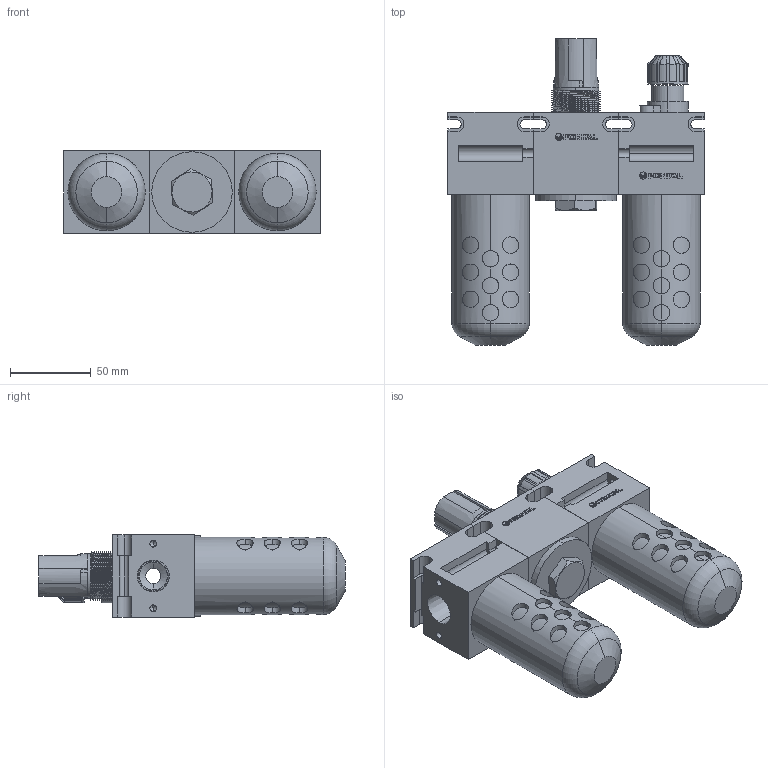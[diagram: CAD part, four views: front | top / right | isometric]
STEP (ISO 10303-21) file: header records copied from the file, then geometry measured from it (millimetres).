
FILE_DESCRIPTION (( 'STEP AP203' ), '1' );
FILE_NAME ('C55##-04#Y##.STEP', '2016-02-03T08:32:34', ( '' ), ( '' ), 'SwSTEP 2.0', 'SolidWorks 2014', '' );
FILE_SCHEMA (( 'CONFIG_CONTROL_DESIGN' ));
Length unit declared in the file: millimetre
Products named in the file (15): F55-2; R45-3; F55=04; F55-04; L55-04#; R364-5; L508-5; F45-MARK; R364-4; C55##-04#Y##; R55-04; L45-1; L45-2; R55#-04##; R55-2
Assembly tree (16 placements, depth 4):
  C55##-04#Y##
    F55=04
      F55-04
      F55-2
      F45-MARK
    R55#-04##
      R55-04
      R55-2
      R45-3
      R364-4
      R364-5
      F45-MARK
    L55-04#
      F55=04
        F55-04
        F55-2
        F45-MARK
      L45-2
      L508-5
      L45-1
Bounding box: 159 x 190 x 51.25 mm (x, y, z)
Volume: 699470.4 mm3; surface area: 121643.2 mm2
Topology: 33 solids, 33 shells, 837 faces, 2156 edges, 1416 vertices
Faces by surface type: plane 444, cylinder 304, cone 55, bspline 30, torus 4
Entity records: 21467 total; most frequent: CARTESIAN_POINT 7519, ORIENTED_EDGE 2642, DIRECTION 2436, EDGE_CURVE 1321, VERTEX_POINT 868, VECTOR 816, LINE 816, AXIS2_PLACEMENT_3D 810
